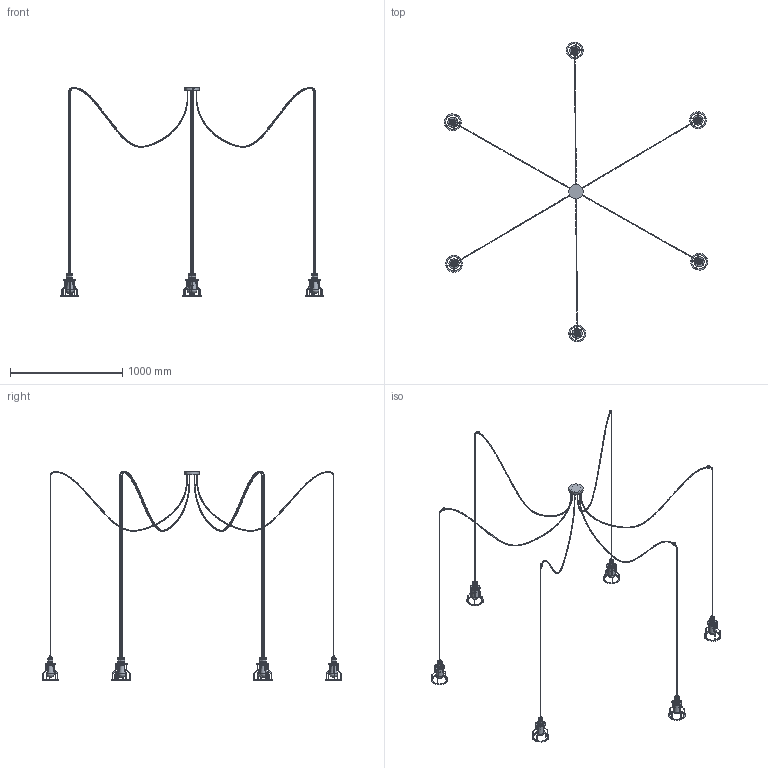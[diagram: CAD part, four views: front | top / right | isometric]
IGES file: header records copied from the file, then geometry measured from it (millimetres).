
Start section: SolidWorks IGES file using analytic representation for surfaces
Global section: file name: X:\PRODUKT\Modele 3D_WWW\_KOLEKCJE WWW\WORKSHOP\WORKSHOP-VI-9631\WORKSHOP-VI-9631.IGS; native system: SolidWorks 2021; preprocessor: SolidWorks 2021; author: gabriela.tworek; date: 221117.121520; units: millimetre
Bounding box: 2345.44 x 2672.46 x 1867.97 mm (x, y, z)
Surface area: 1017594.8 mm2 (no closed solid volume)
Topology: 0 solids, 0 shells, 2021 faces, 8206 edges, 7586 vertices
Faces by surface type: bspline 1329, revolution 692
